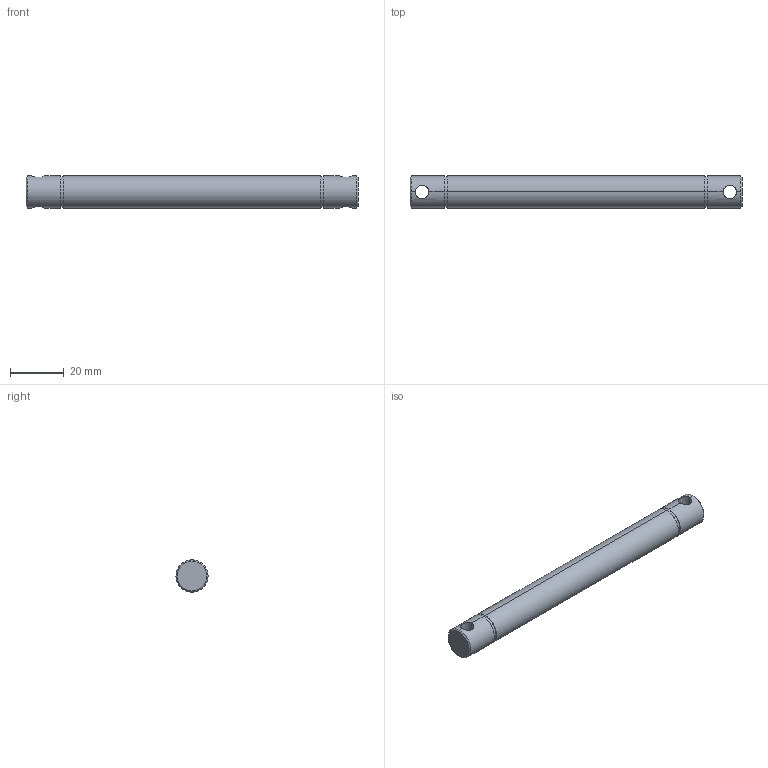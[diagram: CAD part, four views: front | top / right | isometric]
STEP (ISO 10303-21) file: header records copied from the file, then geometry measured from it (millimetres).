
FILE_DESCRIPTION (( 'STEP AP214' ), '1' );
FILE_NAME ('084.030.114.STEP', '2021-02-05T15:35:47', ( '' ), ( '' ), 'SwSTEP 2.0', 'SolidWorks 2018', '' );
FILE_SCHEMA (( 'AUTOMOTIVE_DESIGN' ));
Length unit declared in the file: millimetre
Products named in the file (1): 084.030.114
Bounding box: 124 x 12 x 12 mm (x, y, z)
Volume: 13533.8 mm3; surface area: 5191.3 mm2
Topology: 1 solids, 1 shells, 24 faces, 54 edges, 32 vertices
Faces by surface type: cylinder 14, plane 6, cone 4
Entity records: 976 total; most frequent: CARTESIAN_POINT 351, DIRECTION 120, ORIENTED_EDGE 108, EDGE_CURVE 54, AXIS2_PLACEMENT_3D 49, VERTEX_POINT 32, EDGE_LOOP 28, ADVANCED_FACE 24
